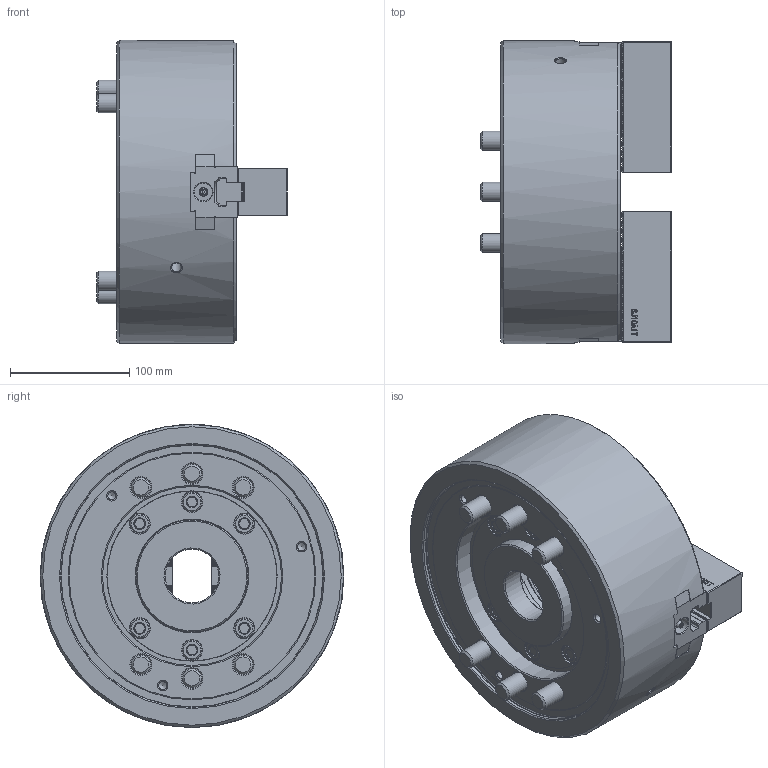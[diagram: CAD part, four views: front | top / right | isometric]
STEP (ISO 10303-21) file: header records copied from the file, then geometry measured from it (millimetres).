
FILE_DESCRIPTION (( 'STEP AP214' ), '1' );
FILE_NAME ('DT1_BT210_OUTSIDE_VIEW_HUL.STEP', '2024-05-09T01:10:21', ( '' ), ( '' ), 'SwSTEP 2.0', 'SolidWorks 2022', '' );
FILE_SCHEMA (( 'AUTOMOTIVE_DESIGN' ));
Length unit declared in the file: millimetre
Products named in the file (9): DT1_B210_COVER^DT1-BT210_ﾃﾞﾌｫﾙﾄ; DT1_B210_M16x100^DT1-BT210_ﾃﾞﾌｫﾙﾄ; DT1_B210_M12x30^DT1-BT210_ﾃﾞﾌｫﾙﾄ; DT1_B210_DRAWNUT^DT1-BT210_ﾃﾞﾌｫﾙﾄ; DT1_B210_M6x10^DT1-BT210_ﾃﾞﾌｫﾙﾄ; DT1_B210_SOFTJAW^DT1-BT210_ﾃﾞﾌｫﾙﾄ; DT1_B210_BASE^DT1-BT210_ﾃﾞﾌｫﾙﾄ; DT1_B210_TNUT^DT1-BT210_ﾃﾞﾌｫﾙﾄ; DT1_BT210_OUTSIDE_VIEW_HUL
Assembly tree (21 placements, depth 2):
  DT1_BT210_OUTSIDE_VIEW_HUL
    DT1_B210_SOFTJAW^DT1-BT210_ﾃﾞﾌｫﾙﾄ  x2
    DT1_B210_TNUT^DT1-BT210_ﾃﾞﾌｫﾙﾄ  x2
    DT1_B210_DRAWNUT^DT1-BT210_ﾃﾞﾌｫﾙﾄ
    DT1_B210_COVER^DT1-BT210_ﾃﾞﾌｫﾙﾄ
    DT1_B210_BASE^DT1-BT210_ﾃﾞﾌｫﾙﾄ
    DT1_B210_M6x10^DT1-BT210_ﾃﾞﾌｫﾙﾄ  x4
    DT1_B210_M12x30^DT1-BT210_ﾃﾞﾌｫﾙﾄ  x4
    DT1_B210_M16x100^DT1-BT210_ﾃﾞﾌｫﾙﾄ  x6
Bounding box: 160 x 254 x 254 mm (x, y, z)
Volume: 4619309.6 mm3; surface area: 459379.8 mm2
Topology: 21 solids, 25 shells, 3593 faces, 10090 edges, 6653 vertices
Faces by surface type: plane 2489, cylinder 680, bspline 209, cone 194, torus 19, sphere 2
Full cylindrical faces by diameter (mm): 2 x2, 5 x4, 6 x4, 6.6 x4, 6.8 x3, 8.5 x2, 10.2 x4, 10.5 x4, 11 x4, 12 x4, 13 x4, 15 x2, 16 x6, 17 x12, 18.27 x4, 19 x4, 24.33 x6, 26 x6, 45 x1, 75 x2, 79 x2, 80 x2, 86 x1, 94 x2, 142.7 x1, 150 x1, 220 x1, 221 x1, 254 x1
Entity records: 90796 total; most frequent: CARTESIAN_POINT 25850, ORIENTED_EDGE 14596, DIRECTION 11394, EDGE_CURVE 7298, LINE 5478, VECTOR 5478, VERTEX_POINT 4904, EDGE_LOOP 2962
